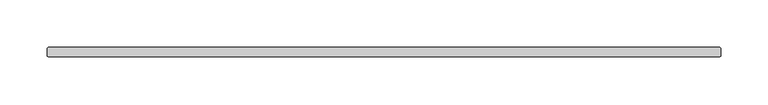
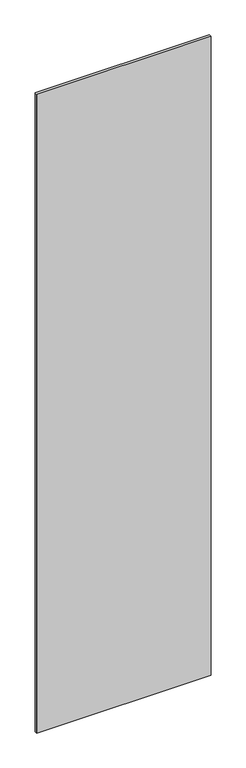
"""IFC4 building model written with IfcOpenShell, lengths in millimetres: plate geometry, Panel Flex Glassline : Panel Flex Glassline."""

from ifc_helpers import new_model, si_unit, origin, origin_with_axes, place, context, project, spatial, polyline, outline, extrude, source, transform, mapped, element, save


def plate_ace970d0(model_context):
    return source(origin(), model_context, "Body", "SweptSolid", [
        extrude(outline(polyline([(353.5, 12.0), (354.5, 11.0), (354.5, 3.0), (353.5, 2.0), (-353.5, 2.0), (-354.5, 3.0), (-354.5, 11.0), (-353.5, 12.0), (353.5, 12.0)])), origin_with_axes(), (0.0, 0.0, 1.0), 2735.0),
    ])


if __name__ == "__main__":
    model = new_model("IFC4")
    model_context = context("Model", 3, world=origin())
    ifc_project = project(units=[si_unit("LENGTHUNIT", "METRE", prefix="MILLI")], contexts=[model_context])
    site = spatial("IfcSite", under=ifc_project)
    building = spatial("IfcBuilding", under=site)
    placement = place(None, origin())
    plate_shape = plate_ace970d0(model_context)
    element("IfcPlate", 1, ObjectType="Panel Flex Glassline : Panel Flex Glassline", at=placement, inside=building, context=model_context, shape_type="MappedRepresentation", body=[
        mapped(plate_shape, transform((0.0, 0.0, 0.0), x_axis=(1.0, 0.0, 0.0), y_axis=(0.0, 1.0, 0.0), z_axis=(0.0, 0.0, 1.0))),
    ])
    save(model, "model.ifc")
